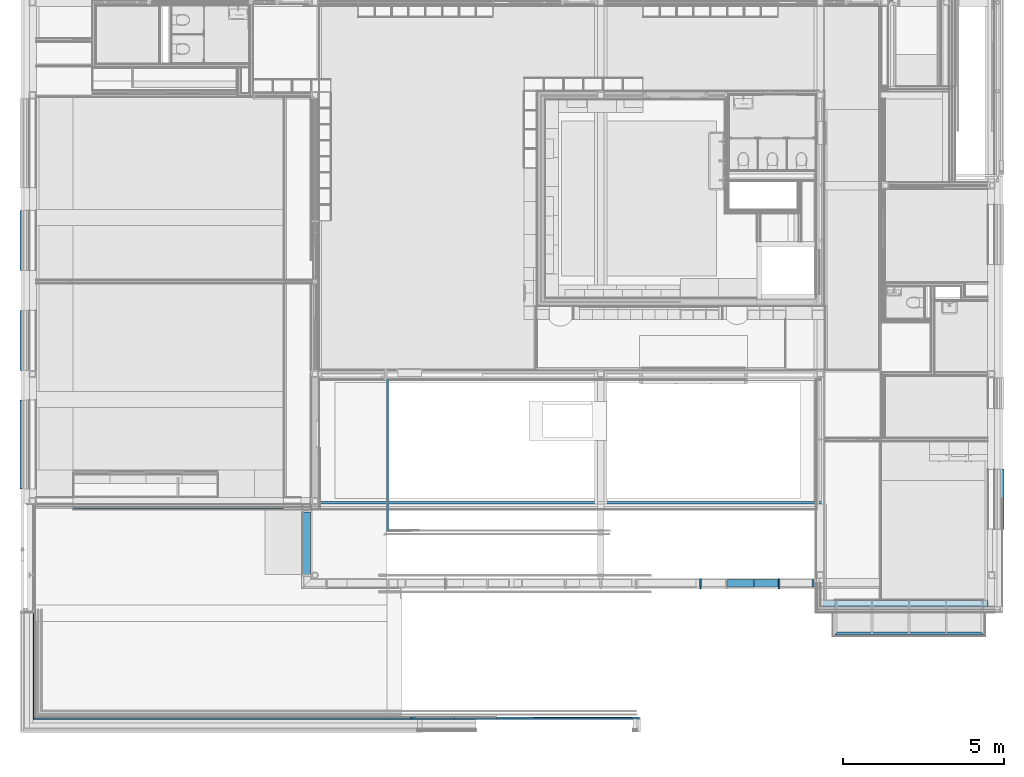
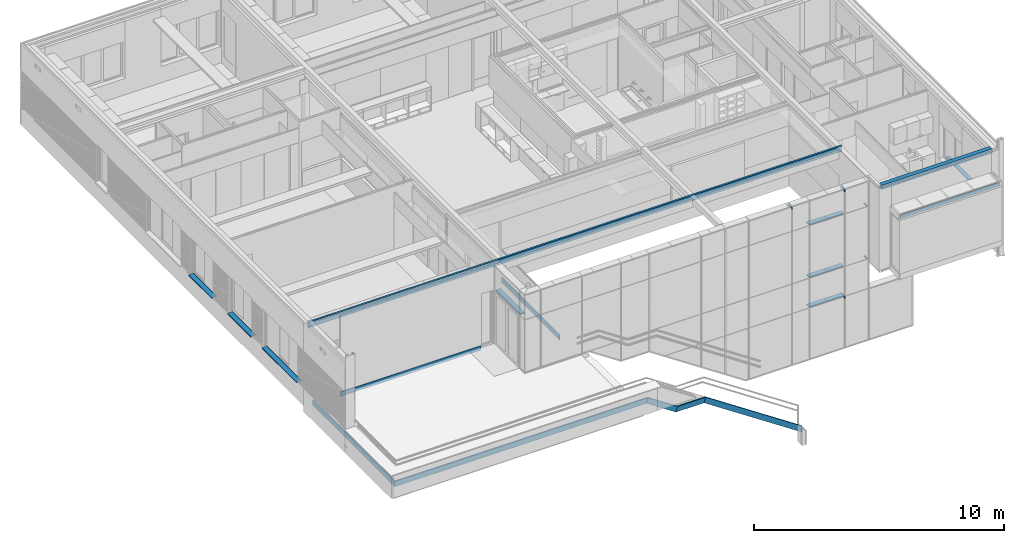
# One storey, part 5 of 137: 14 beams, 12 members, 1 element without a shape of its own.
"""IFC2X3 building model written with IfcOpenShell, lengths in millimetres."""

from ifc_helpers import new_model, entity, si_unit, converted_unit, derived_unit, money_unit, direction, frame, origin_with_axes, place, context, subcontext, project, spatial, faceted_brep, source, transform, mapped, material, type_object, type_shapes, element, aggregate, save


model = new_model("IFC2X3")

# Units and contexts
model_context = context("Model", 3, precision=0.01, world=origin_with_axes(), true_north=direction((0.0, 1.0)))
body_context = subcontext(model_context, "Body", "Model", "MODEL_VIEW")
ifc_project = project(units=[si_unit("LENGTHUNIT", "METRE", prefix="MILLI"), si_unit("AREAUNIT", "SQUARE_METRE"), si_unit("VOLUMEUNIT", "CUBIC_METRE"), converted_unit("PLANEANGLEUNIT", "DEGREE", entity("IfcPlaneAngleMeasure", 0.0174532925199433), si_unit("PLANEANGLEUNIT", "RADIAN"), dimensions=[0, 0, 0, 0, 0, 0, 0]), money_unit("EUR"), converted_unit("TIMEUNIT", "Year", entity("IfcTimeMeasure", 31556926.0), si_unit("TIMEUNIT", "SECOND"), dimensions=[0, 0, 1, 0, 0, 0, 0]), si_unit("MASSUNIT", "GRAM", prefix="KILO"), si_unit("THERMODYNAMICTEMPERATUREUNIT", "DEGREE_CELSIUS"), si_unit("LUMINOUSINTENSITYUNIT", "LUMEN"), si_unit("ENERGYUNIT", "JOULE", prefix="MEGA"), derived_unit("THERMALCONDUCTANCEUNIT", [(si_unit("POWERUNIT", "WATT"), 1), (si_unit("LENGTHUNIT", "METRE"), -1), (si_unit("THERMODYNAMICTEMPERATUREUNIT", "KELVIN"), -1)]), derived_unit("SPECIFICHEATCAPACITYUNIT", [(si_unit("ENERGYUNIT", "JOULE"), 1), (si_unit("MASSUNIT", "GRAM", prefix="KILO"), -1), (si_unit("THERMODYNAMICTEMPERATUREUNIT", "KELVIN"), -1)]), derived_unit("MASSDENSITYUNIT", [(si_unit("MASSUNIT", "GRAM", prefix="KILO"), 1), (si_unit("VOLUMEUNIT", "CUBIC_METRE"), -1)])], contexts=[model_context])

# Site, building, storey
site_placement = place(None, origin_with_axes())
site = spatial("IfcSite", under=ifc_project, at=site_placement, Name="Site", CompositionType="ELEMENT")
building_placement = place(site_placement, origin_with_axes())
building = spatial("IfcBuilding", under=site, at=building_placement, Name="Naam gebouw", CompositionType="ELEMENT")
storey_placement = place(building_placement, frame((0.0, 0.0, 3960.0), z_axis=(0.0, 0.0, 1.0), x_axis=(1.0, 0.0, 0.0)))
storey = spatial("IfcBuildingStorey", under=building, at=storey_placement, Name="1e verdieping", CompositionType="ELEMENT", Elevation=3960.0)

# Curtain wall, members
curtain_wall_type = type_object("IfcCurtainWallType", Name="Curtain Wall Type", PredefinedType="NOTDEFINED")
curtain_wall_placement = place(storey_placement, frame((8473.014787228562, 4364.43626274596, -3949.999921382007), z_axis=(0.0, 0.0, 1.0), x_axis=(1.0, 0.0, 0.0)))
curtain_wall = element("IfcCurtainWall", 1, at=curtain_wall_placement, inside=storey, type_object=curtain_wall_type, Name="21_Vliesgevel-x")
ifc_material_1 = material(Name="Metaal - Staal AFW")
member_type_1 = type_object("IfcMemberType", Name="Transom Frame 50 x 258", PredefinedType="MULLION")
shared_shape_1 = source(origin_with_axes(), body_context, "Body", "Brep", [
    faceted_brep([(25.0, -17.4, 24.99999999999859), (25.0, -17.4, 852.961212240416), (25.0, -237.0, 852.961212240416), (25.0, -237.0, 24.99999999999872), (-25.0, -17.4, 24.99999999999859), (-25.0, -17.4, 852.961212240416), (-25.0, -237.0, 852.961212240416), (-25.0, -237.0, 24.99999999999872)], [[[0, 1, 2, 3]], [[4, 5, 1, 0]], [[2, 1, 5, 6]], [[3, 2, 6, 7]], [[3, 7, 4, 0]], [[7, 6, 5, 4]]]),
])
member_1_placement = place(curtain_wall_placement, frame((13116.98043337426, -161.4362627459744, 2535.000025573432), z_axis=(1.0, 0.0, 0.0), x_axis=(0.0, 0.0, 1.0)))
member_1 = element("IfcMember", 2, at=member_1_placement, type_object=member_type_1, material=ifc_material_1, Name="h METAAL_Kader-x", ObjectType="MULLION", context=body_context, shape_type="MappedRepresentation", body=[
    mapped(shared_shape_1, transform((0.0, 0.0, 0.0))),
])
member_2_placement = place(curtain_wall_placement, frame((13116.98043337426, -161.4362627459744, 3984.999927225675), z_axis=(1.0, 0.0, 0.0), x_axis=(0.0, 0.0, 1.0)))
member_2 = element("IfcMember", 3, at=member_2_placement, type_object=member_type_1, material=ifc_material_1, Name="_Kader-x", ObjectType="MULLION", context=body_context, shape_type="MappedRepresentation", body=[
    mapped(shared_shape_1, transform((0.0, 0.0, 0.0))),
])
member_3_placement = place(curtain_wall_placement, frame((13116.98043308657, -161.4362627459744, 6549.999915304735), z_axis=(1.0, 0.0, 0.0), x_axis=(0.0, 0.0, 1.0)))
member_3 = element("IfcMember", 4, at=member_3_placement, type_object=member_type_1, material=ifc_material_1, Name="_Kader-x", ObjectType="MULLION", context=body_context, shape_type="MappedRepresentation", body=[
    mapped(shared_shape_1, transform((0.0, 0.0, 0.0))),
])
shared_shape_2 = source(origin_with_axes(), body_context, "Body", "Brep", [
    faceted_brep([(25.0, -237.0, 0.0), (25.0, -17.4, 0.0), (25.0, -17.4, 754.9800860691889), (25.0, -237.0, 754.9800860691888), (-25.0, -237.0, 0.0), (-25.0, -17.4, 0.0), (-25.0, -17.4, 754.9800860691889), (-25.0, -237.0, 754.9800860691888)], [[[0, 1, 2, 3]], [[0, 4, 5, 1]], [[1, 5, 6, 2]], [[3, 2, 6, 7]], [[4, 0, 3, 7]], [[5, 4, 7, 6]]]),
])
member_4_placement = place(curtain_wall_placement, frame((13969.94164561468, -161.4362627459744, 3984.999927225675), z_axis=(1.0, 0.0, 0.0), x_axis=(0.0, 0.0, 1.0)))
member_4 = element("IfcMember", 5, at=member_4_placement, type_object=member_type_1, material=ifc_material_1, Name="_Kader-x", ObjectType="MULLION", context=body_context, shape_type="MappedRepresentation", body=[
    mapped(shared_shape_2, transform((0.0, 0.0, 0.0))),
])
member_5_placement = place(curtain_wall_placement, frame((13969.94164561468, -161.4362627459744, 2535.000025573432), z_axis=(1.0, 0.0, 0.0), x_axis=(0.0, 0.0, 1.0)))
member_5 = element("IfcMember", 6, at=member_5_placement, type_object=member_type_1, material=ifc_material_1, Name="h METAAL_Kader-x", ObjectType="MULLION", context=body_context, shape_type="MappedRepresentation", body=[
    mapped(shared_shape_2, transform((0.0, 0.0, 0.0))),
])
member_6_placement = place(curtain_wall_placement, frame((13969.94164561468, -161.4362627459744, 6549.999915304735), z_axis=(1.0, 0.0, 0.0), x_axis=(0.0, 0.0, 1.0)))
member_6 = element("IfcMember", 7, at=member_6_placement, type_object=member_type_1, material=ifc_material_1, Name="_Kader-x", ObjectType="MULLION", context=body_context, shape_type="MappedRepresentation", body=[
    mapped(shared_shape_2, transform((0.0, 0.0, 0.0))),
])
member_type_2 = type_object("IfcMemberType", Name="Mullion Frame 50 x 313", PredefinedType="MULLION")
shared_shape_3 = source(origin_with_axes(), body_context, "Body", "Brep", [
    faceted_brep([(10.0, -17.4, -2.010167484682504e-07), (10.0, 21.0, -2.010167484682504e-07), (10.0, 21.0, 95.00025928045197), (10.0, -17.4, 95.00025928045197), (-10.0, -17.4, -2.010167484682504e-07), (-10.0, 21.0, -2.010167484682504e-07), (-10.0, 21.0, 95.00025928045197), (-10.0, -17.4, 95.00025928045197)], [[[0, 1, 2, 3]], [[0, 4, 5, 1]], [[1, 5, 6, 2]], [[3, 2, 6, 7]], [[4, 0, 3, 7]], [[5, 4, 7, 6]]]),
    faceted_brep([(25.0, -272.0, -2.010167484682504e-07), (25.0, -17.4, -2.010167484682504e-07), (25.0, -17.4, 95.00025928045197), (25.0, -272.0, 95.00025928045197), (-25.0, -272.0, -2.010167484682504e-07), (-25.0, -17.4, -2.010167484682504e-07), (-25.0, -17.4, 95.00025928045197), (-25.0, -272.0, 95.00025928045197)], [[[0, 1, 2, 3]], [[0, 4, 5, 1]], [[1, 5, 6, 2]], [[3, 2, 6, 7]], [[4, 0, 3, 7]], [[5, 4, 7, 6]]]),
    faceted_brep([(-25.0, 40.49999999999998, -2.010167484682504e-07), (-25.0, 21.0, -2.010167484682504e-07), (-25.0, 21.0, 95.00025928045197), (-25.0, 40.49999999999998, 95.00025928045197), (25.0, 40.49999999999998, -2.010167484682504e-07), (25.0, 21.0, -2.010167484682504e-07), (25.0, 21.0, 95.00025928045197), (25.0, 40.49999999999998, 95.00025928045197)], [[[0, 1, 2, 3]], [[0, 4, 5, 1]], [[1, 5, 6, 2]], [[3, 2, 6, 7]], [[4, 0, 3, 7]], [[5, 4, 7, 6]]]),
])
member_7_placement = place(curtain_wall_placement, frame((14749.92173168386, -161.4362627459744, 2439.99976629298), z_axis=(0.0, 0.0, 1.0), x_axis=(-1.0, 0.0, 0.0)))
member_7 = element("IfcMember", 8, at=member_7_placement, type_object=member_type_2, material=ifc_material_1, Name="h METAAL_Kader-x", ObjectType="MULLION", context=body_context, shape_type="MappedRepresentation", body=[
    mapped(shared_shape_3, transform((0.0, 0.0, 0.0))),
])
shared_shape_4 = source(origin_with_axes(), body_context, "Body", "Brep", [
    faceted_brep([(10.0, -17.4, -4.973650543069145e-06), (10.0, 21.0, -4.973650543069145e-06), (10.0, 21.0, 110.0002575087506), (10.0, -17.4, 110.0002506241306), (-10.0, -17.4, -4.973650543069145e-06), (-10.0, 21.0, -4.973650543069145e-06), (-10.0, 21.0, 110.0002575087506), (-10.0, -17.4, 110.0002506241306)], [[[0, 1, 2, 3]], [[0, 4, 5, 1]], [[1, 5, 6, 2]], [[3, 2, 6, 7]], [[4, 0, 3, 7]], [[5, 4, 7, 6]]]),
    faceted_brep([(25.0, -272.0, -4.973650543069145e-06), (25.0, -17.4, -4.973650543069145e-06), (25.0, -17.4, 110.0002506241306), (25.0, -272.0, 110.000204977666), (-25.0, -272.0, -4.973650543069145e-06), (-25.0, -17.4, -4.973650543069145e-06), (-25.0, -17.4, 110.0002506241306), (-25.0, -272.0, 110.000204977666)], [[[0, 1, 2, 3]], [[0, 4, 5, 1]], [[1, 5, 6, 2]], [[3, 2, 6, 7]], [[4, 0, 3, 7]], [[5, 4, 7, 6]]]),
    faceted_brep([(-25.0, 40.49999999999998, -4.973650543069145e-06), (-25.0, 21.0, -4.973650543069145e-06), (-25.0, 21.0, 110.0002575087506), (-25.0, 40.49999999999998, 110.0002610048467), (25.0, 40.49999999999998, -4.973650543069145e-06), (25.0, 21.0, -4.973650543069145e-06), (25.0, 21.0, 110.0002575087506), (25.0, 40.49999999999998, 110.0002610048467)], [[[0, 1, 2, 3]], [[0, 4, 5, 1]], [[1, 5, 6, 2]], [[3, 2, 6, 7]], [[4, 0, 3, 7]], [[5, 4, 7, 6]]]),
])
type_shapes(member_type_2, [shared_shape_3, shared_shape_4])
member_8_placement = place(curtain_wall_placement, frame((14749.92173576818, -161.4362627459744, 7639.999766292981), z_axis=(7.30038870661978e-08, 0.0, 0.9999999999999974), x_axis=(-0.9999999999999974, 0.0, 7.30038870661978e-08)))
member_8 = element("IfcMember", 9, at=member_8_placement, type_object=member_type_2, material=ifc_material_1, Name="_Kader-x", ObjectType="MULLION", context=body_context, shape_type="MappedRepresentation", body=[
    mapped(shared_shape_4, transform((0.0, 0.0, 0.0))),
])
member_9_placement = place(curtain_wall_placement, frame((12316.98041549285, -161.4362627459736, 7639.999766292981), z_axis=(0.0, 0.0, 1.0), x_axis=(-1.0, 0.0, 0.0)))
member_9 = element("IfcMember", 10, at=member_9_placement, type_object=member_type_2, material=ifc_material_1, Name="_Kader-x", ObjectType="MULLION", context=body_context, shape_type="MappedRepresentation", body=[
    mapped(shared_shape_4, transform((0.0, 0.0, 0.0))),
])
shared_shape_5 = source(origin_with_axes(), body_context, "Body", "Brep", [
    faceted_brep([(25.0, -237.0, -3.598017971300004e-06), (25.0, -17.4, -3.598017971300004e-06), (25.0, -17.4, 61.04460701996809), (25.0, -237.0, 61.04457541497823), (-25.0, -237.0, -3.598017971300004e-06), (-25.0, -17.4, -3.598017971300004e-06), (-25.0, -17.4, 61.04460701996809), (-25.0, -237.0, 61.04457541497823)], [[[0, 1, 2, 3]], [[0, 4, 5, 1]], [[1, 5, 6, 2]], [[3, 2, 6, 7]], [[4, 0, 3, 7]], [[5, 4, 7, 6]]]),
])
type_shapes(member_type_1, [shared_shape_1, shared_shape_2, shared_shape_5])
member_10_placement = place(curtain_wall_placement, frame((15769.94164561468, -161.4362627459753, 3984.999927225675), z_axis=(0.9999999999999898, 0.0, -1.439207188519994e-07), x_axis=(1.439207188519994e-07, 0.0, 0.9999999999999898)))
member_10 = element("IfcMember", 11, at=member_10_placement, type_object=member_type_1, material=ifc_material_1, Name="h METAAL_Kader-x", ObjectType="MULLION", context=body_context, shape_type="MappedRepresentation", body=[
    mapped(shared_shape_5, transform((0.0, 0.0, 0.0))),
])
member_11_placement = place(curtain_wall_placement, frame((15769.94164561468, -161.4362627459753, 6549.999922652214), z_axis=(1.0, 0.0, 0.0), x_axis=(0.0, 0.0, 1.0)))
member_11 = element("IfcMember", 12, at=member_11_placement, type_object=member_type_1, material=ifc_material_1, Name="_Kader-x", ObjectType="MULLION", context=body_context, shape_type="MappedRepresentation", body=[
    mapped(shared_shape_5, transform((0.0, 0.0, 0.0))),
])

# Beams
ifc_material_2 = material(Name="Metaal - Staal C")
beam_type_1 = type_object("IfcBeamType", Name="UNP260 90 x 260", PredefinedType="BEAM")
beam_1_placement = place(storey_placement, frame((0.0, 6779.999999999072, 3729.999999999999), z_axis=(0.0, 0.0, 1.0), x_axis=(0.0, -1.0, 0.0)))
element("IfcBeam", 13, at=beam_1_placement, inside=storey, type_object=beam_type_1, material=ifc_material_2, Name="h METAAL_Regenwaterafvoer-x", ObjectType="BEAM", context=body_context, shape_type="Brep", body=[
    faceted_brep([(0.0, 0.0, 129.9999999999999), (0.0, 24600.99903663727, 130.0000290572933), (-89.99999999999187, 24600.99903663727, 130.0000290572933), (-89.99999999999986, 0.0, 129.9999999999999), (0.0, 0.0, -129.9999999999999), (0.0, 24600.99903663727, -129.9999999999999), (-10.00000000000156, 24600.99903663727, 115.9999999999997), (-89.99999999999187, 24600.99903663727, 115.9999999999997), (-89.99999999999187, 24600.99903663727, -129.9999999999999), (-89.99999999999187, 24600.99903663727, -115.9999999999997), (-10.00000000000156, 24600.99903663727, -115.9999999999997), (-89.99999999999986, 0.0, 115.9999999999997), (-89.99999999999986, 0.0, -129.9999999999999), (-9.999999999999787, 0.0, 115.9999999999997), (-9.999999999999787, 0.0, -115.9999999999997), (-89.99999999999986, 0.0, -115.9999999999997)], [[[0, 1, 2, 3]], [[4, 5, 1, 0]], [[6, 7, 2, 1, 5, 8, 9, 10]], [[3, 2, 7, 11]], [[12, 4, 0, 3, 11, 13, 14, 15]], [[12, 8, 5, 4]], [[11, 7, 6, 13]], [[15, 9, 8, 12]], [[14, 10, 9, 15]], [[13, 6, 10, 14]]]),
])
beam_type_2 = type_object("IfcBeamType", Name="200X200X10 200 x 200", PredefinedType="BEAM")
beam_2_placement = place(storey_placement, frame((24600.99903999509, 3699.999999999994, 3759.999999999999), z_axis=(0.0, 0.0, 1.0), x_axis=(0.0, -1.0, 0.0)))
element("IfcBeam", 14, at=beam_2_placement, inside=storey, type_object=beam_type_2, material=ifc_material_2, Name="h METAAL_Regenwaterafvoer-x", ObjectType="BEAM", context=body_context, shape_type="Brep", body=[
    faceted_brep([(-100.0000000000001, 5098.000959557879, -99.99999999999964), (99.99999999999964, 5098.000959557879, -99.99999999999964), (100.0000000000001, 0.0, -99.99999999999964), (-100.0000000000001, 0.0, -99.99999999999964), (-100.0000000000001, 5098.000959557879, 99.99999999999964), (99.99999999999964, 5098.000959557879, 99.99999999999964), (-90.0000000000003, 5098.000959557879, -89.99999999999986), (89.99999999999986, 5098.000959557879, -89.99999999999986), (89.99999999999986, 5098.000959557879, 89.99999999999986), (-90.0000000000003, 5098.000959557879, 89.99999999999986), (100.0000000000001, 0.0, 99.99999999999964), (-100.0000000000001, 0.0, 99.99999999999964), (-89.99999999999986, 0.0, -89.99999999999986), (-89.99999999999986, 0.0, 89.99999999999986), (89.99999999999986, 0.0, 89.99999999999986), (89.99999999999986, 0.0, -89.99999999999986)], [[[0, 1, 2, 3]], [[0, 4, 5, 1], [6, 7, 8, 9]], [[1, 5, 10, 2]], [[3, 2, 10, 11], [12, 13, 14, 15]], [[4, 0, 3, 11]], [[5, 4, 11, 10]], [[7, 6, 12, 15]], [[8, 7, 15, 14]], [[9, 8, 14, 13]], [[6, 9, 13, 12]]]),
])
ifc_material_3 = material(Name="Metaal - Aluminium")
beam_type_3 = type_object("IfcBeamType", Name="41 Waterslag 218 x 75", PredefinedType="BEAM")
beam_3_placement = place(storey_placement, frame((30150.0, 7865.997781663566, 750.0), z_axis=(0.0, 0.0, 1.0), x_axis=(-1.0, 0.0, 0.0)))
element("IfcBeam", 15, at=beam_3_placement, inside=storey, type_object=beam_type_3, material=ifc_material_3, Name="h4 Aluminium, aluminiumlegeringen_Regenwaterafvoer-x", ObjectType="BEAM", context=body_context, shape_type="Brep", body=[
    faceted_brep([(178.0000000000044, 0.0, 49.99999999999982), (178.0000000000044, 1870.000000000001, 49.99999999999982), (175.0000000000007, 1870.000000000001, 49.99999999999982), (175.0000000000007, 0.0, 49.99999999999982), (177.9999999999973, 0.0, 27.27462510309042), (177.9999999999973, 1870.000000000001, 27.27462510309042), (-36.99999999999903, 1870.000000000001, 12.08231741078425), (-36.99999999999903, 1870.000000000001, -21.99999999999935), (-21.99999999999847, 1870.000000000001, -21.99999999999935), (-21.99999999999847, 1870.000000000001, -24.99999999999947), (-39.99999999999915, 1870.000000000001, -24.99999999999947), (-39.99999999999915, 1870.000000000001, 15.00000000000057), (175.0000000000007, 1870.000000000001, 30.00000000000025), (175.0000000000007, 0.0, 30.00000000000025), (-39.99999999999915, 0.0, 15.00000000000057), (-39.99999999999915, 0.0, -24.99999999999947), (-21.99999999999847, 0.0, -24.99999999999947), (-21.99999999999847, 0.0, -21.99999999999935), (-36.99999999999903, 0.0, -21.99999999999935), (-36.99999999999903, 0.0, 12.08231741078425)], [[[0, 1, 2, 3]], [[4, 5, 1, 0]], [[2, 1, 5, 6, 7, 8, 9, 10, 11, 12]], [[3, 2, 12, 13]], [[4, 0, 3, 13, 14, 15, 16, 17, 18, 19]], [[19, 6, 5, 4]], [[18, 7, 6, 19]], [[17, 8, 7, 18]], [[16, 9, 8, 17]], [[15, 10, 9, 16]], [[14, 11, 10, 15]], [[13, 12, 11, 14]]]),
])
beam_4_placement = place(storey_placement, frame((-250.0000000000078, 7244.999999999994, 750.0), z_axis=(0.0, 0.0, 1.0), x_axis=(0.999999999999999, 4.600755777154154e-08, 0.0)))
element("IfcBeam", 16, at=beam_4_placement, inside=storey, type_object=beam_type_3, material=ifc_material_3, Name="h4 Aluminium, aluminiumlegeringen_Regenwaterafvoer-x", ObjectType="BEAM", context=body_context, shape_type="Brep", body=[
    faceted_brep([(178.0000000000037, 0.0, 49.99999999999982), (178.0000000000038, 2769.999999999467, 49.99999999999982), (175.0000000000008, 2769.999999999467, 49.99999999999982), (175.0000000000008, 0.0, 49.99999999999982), (177.9999999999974, 0.0, 27.27462510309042), (177.9999999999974, 2769.999999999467, 27.27462510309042), (-36.99999999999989, 2769.999999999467, 12.08231741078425), (-36.99999999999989, 2769.999999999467, -21.99999999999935), (-21.99999999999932, 2769.999999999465, -21.99999999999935), (-21.99999999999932, 2769.999999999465, -24.99999999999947), (-40.00000000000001, 2769.999999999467, -24.99999999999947), (-40.00000000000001, 2769.999999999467, 15.00000000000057), (175.0000000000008, 2769.999999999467, 30.00000000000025), (175.0000000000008, 0.0, 30.00000000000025), (-40.00000000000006, 0.0, 15.00000000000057), (-40.00000000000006, 0.0, -24.99999999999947), (-21.99999999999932, 0.0, -24.99999999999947), (-21.99999999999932, 0.0, -21.99999999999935), (-36.99999999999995, 0.0, -21.99999999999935), (-36.99999999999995, 0.0, 12.08231741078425)], [[[0, 1, 2, 3]], [[4, 5, 1, 0]], [[2, 1, 5, 6, 7, 8, 9, 10, 11, 12]], [[3, 2, 12, 13]], [[4, 0, 3, 13, 14, 15, 16, 17, 18, 19]], [[19, 6, 5, 4]], [[18, 7, 6, 19]], [[17, 8, 7, 18]], [[16, 9, 8, 17]], [[15, 10, 9, 16]], [[14, 11, 10, 15]], [[13, 12, 11, 14]]]),
])
beam_5_placement = place(storey_placement, frame((-250.0000000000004, 14014.99980396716, 750.0), z_axis=(0.0, 0.0, 1.0), x_axis=(1.0, 0.0, 0.0)))
element("IfcBeam", 17, at=beam_5_placement, inside=storey, type_object=beam_type_3, material=ifc_material_3, Name="h4 Aluminium, aluminiumlegeringen_Regenwaterafvoer-x", ObjectType="BEAM", context=body_context, shape_type="Brep", body=[
    faceted_brep([(178.0000000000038, 0.0, 49.99999999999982), (178.0000000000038, 1870.000007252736, 49.99999999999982), (175.0000000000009, 1870.000007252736, 49.99999999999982), (175.0000000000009, 0.0, 49.99999999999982), (177.9999999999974, 0.0, 27.27462510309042), (177.9999999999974, 1870.000007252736, 27.27462510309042), (-36.99999999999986, 1870.000007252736, 12.08231741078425), (-36.99999999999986, 1870.000007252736, -21.99999999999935), (-21.9999999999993, 1870.000007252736, -21.99999999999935), (-21.9999999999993, 1870.000007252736, -24.99999999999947), (-39.99999999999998, 1870.000007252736, -24.99999999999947), (-39.99999999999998, 1870.000007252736, 15.00000000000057), (175.0000000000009, 1870.000007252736, 30.00000000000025), (175.0000000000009, 0.0, 30.00000000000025), (-39.99999999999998, 0.0, 15.00000000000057), (-39.99999999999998, 0.0, -24.99999999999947), (-21.9999999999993, 0.0, -24.99999999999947), (-21.9999999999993, 0.0, -21.99999999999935), (-36.99999999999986, 0.0, -21.99999999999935), (-36.99999999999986, 0.0, 12.08231741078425)], [[[0, 1, 2, 3]], [[4, 5, 1, 0]], [[2, 1, 5, 6, 7, 8, 9, 10, 11, 12]], [[3, 2, 12, 13]], [[4, 0, 3, 13, 14, 15, 16, 17, 18, 19]], [[19, 6, 5, 4]], [[18, 7, 6, 19]], [[17, 8, 7, 18]], [[16, 9, 8, 17]], [[15, 10, 9, 16]], [[14, 11, 10, 15]], [[13, 12, 11, 14]]]),
])
beam_6_placement = place(storey_placement, frame((-250.0001274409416, 10915.00011055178, 750.0), z_axis=(0.0, 0.0, 1.0), x_axis=(1.0, 0.0, 0.0)))
element("IfcBeam", 18, at=beam_6_placement, inside=storey, type_object=beam_type_3, material=ifc_material_3, Name="h4 Aluminium, aluminiumlegeringen_Regenwaterafvoer-x", ObjectType="BEAM", context=body_context, shape_type="Brep", body=[
    faceted_brep([(178.0000000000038, 0.0, 49.99999999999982), (178.0000000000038, 1870.000000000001, 49.99999999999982), (175.0000000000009, 1870.000000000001, 49.99999999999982), (175.0000000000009, 0.0, 49.99999999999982), (177.9999999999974, 0.0, 27.27462510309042), (177.9999999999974, 1870.000000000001, 27.27462510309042), (-36.99999999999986, 1870.000000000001, 12.08231741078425), (-36.99999999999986, 1870.000000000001, -21.99999999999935), (-21.9999999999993, 1870.000000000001, -21.99999999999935), (-21.9999999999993, 1870.000000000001, -24.99999999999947), (-39.99999999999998, 1870.000000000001, -24.99999999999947), (-39.99999999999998, 1870.000000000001, 15.00000000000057), (175.0000000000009, 1870.000000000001, 30.00000000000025), (175.0000000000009, 0.0, 30.00000000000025), (-39.99999999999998, 0.0, 15.00000000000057), (-39.99999999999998, 0.0, -24.99999999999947), (-21.9999999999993, 0.0, -24.99999999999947), (-21.9999999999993, 0.0, -21.99999999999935), (-36.99999999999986, 0.0, -21.99999999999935), (-36.99999999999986, 0.0, 12.08231741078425)], [[[0, 1, 2, 3]], [[4, 5, 1, 0]], [[2, 1, 5, 6, 7, 8, 9, 10, 11, 12]], [[3, 2, 12, 13]], [[4, 0, 3, 13, 14, 15, 16, 17, 18, 19]], [[19, 6, 5, 4]], [[18, 7, 6, 19]], [[17, 8, 7, 18]], [[16, 9, 8, 17]], [[15, 10, 9, 16]], [[14, 11, 10, 15]], [[13, 12, 11, 14]]]),
])
beam_type_4 = type_object("IfcBeamType", Name="UNP160 65 x 160", PredefinedType="BEAM")
beam_7_placement = place(storey_placement, frame((29549.99999999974, 2749.999999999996, 2703.499999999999), z_axis=(0.0, 0.0, 1.0), x_axis=(0.0, 1.0, 0.0)))
element("IfcBeam", 19, at=beam_7_placement, inside=storey, type_object=beam_type_4, material=ifc_material_2, Name="h METAAL_Regenwaterafvoer-x", ObjectType="BEAM", context=body_context, shape_type="Brep", body=[
    faceted_brep([(0.0, 0.0, -80.00000000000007), (0.0, 4600.000960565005, -80.00000000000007), (64.99999999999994, 4535.000960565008, -80.00000000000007), (64.99999999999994, 65.00000000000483, -80.00000000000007), (0.0, 0.0, 80.00000000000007), (0.0, 4600.000960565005, 80.00000000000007), (64.99999999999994, 4535.000960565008, 80.00000000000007), (64.99999999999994, 4535.000960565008, 69.49999999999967), (7.49999999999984, 4592.500960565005, 69.49999999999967), (7.49999999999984, 4592.500960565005, -69.49999999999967), (64.99999999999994, 4535.000960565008, -69.49999999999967), (64.99999999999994, 65.00000000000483, -69.49999999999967), (7.49999999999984, 7.500000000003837, -69.49999999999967), (7.49999999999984, 7.500000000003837, 69.49999999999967), (64.99999999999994, 65.00000000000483, 69.49999999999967), (64.99999999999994, 65.00000000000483, 80.00000000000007)], [[[0, 1, 2, 3]], [[4, 5, 1, 0]], [[2, 1, 5, 6, 7, 8, 9, 10]], [[3, 2, 10, 11]], [[4, 0, 3, 11, 12, 13, 14, 15]], [[15, 6, 5, 4]], [[14, 7, 6, 15]], [[13, 8, 7, 14]], [[12, 9, 8, 13]], [[11, 10, 9, 12]]]),
])
ifc_material_4 = material(Name="Gipsplaat")
beam_type_5 = type_object("IfcBeamType", Name="Gipsplaat 13 x 275", PredefinedType="BEAM")
beam_8_placement = place(storey_placement, frame((11108.79559255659, 5970.000018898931, -124.9999993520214), z_axis=(0.0, 0.0, 1.0), x_axis=(1.0, 0.0, 0.0)))
element("IfcBeam", 20, at=beam_8_placement, inside=storey, type_object=beam_type_5, material=ifc_material_4, Name="f7 Vormvaste grondstoffen, gebonden met gips_Regenwaterafvoer-x", ObjectType="BEAM", context=body_context, shape_type="Brep", body=[
    faceted_brep([(-6.249999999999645, 4649.968108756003, 0.0), (-6.249999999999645, 0.0, 0.0), (6.249999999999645, 0.0, 0.0), (6.249999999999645, 4649.968108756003, 0.0), (-6.249999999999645, 4649.968108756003, -274.9999999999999), (-6.249999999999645, 0.0, -274.9999999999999), (6.249999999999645, 0.0, -274.9999999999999), (6.249999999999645, 4649.968108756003, -274.9999999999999)], [[[0, 1, 2, 3]], [[4, 5, 1, 0]], [[1, 5, 6, 2]], [[3, 2, 6, 7]], [[7, 4, 0, 3]], [[7, 6, 5, 4]]]),
])
ifc_material_5 = material(Name="47 waterdichte laag - bitumen")
beam_type_6 = type_object("IfcBeamType", Name="41 Plint stucwerk 62 x 250", PredefinedType="BEAM")
beam_9_placement = place(storey_placement, frame((183.9999969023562, 6702.999992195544, 89.99999999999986), z_axis=(0.0, 0.0, 1.0), x_axis=(-1.0, 0.0, 0.0)))
element("IfcBeam", 21, at=beam_9_placement, inside=storey, type_object=beam_type_6, material=ifc_material_5, Name="g2- Gebakken klei_Regenwaterafvoer-x", ObjectType="BEAM", context=body_context, shape_type="Brep", body=[
    faceted_brep([(0.0, 0.0, 0.0), (0.0, 6518.999992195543, 0.0), (0.0, 6518.999992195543, -4.000000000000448), (0.0, 0.0, -4.000000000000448), (62.0, 0.0, 0.0), (62.00000000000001, 6580.999992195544, 0.0), (62.00000000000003, 6580.999992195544, -250.0), (58.00000000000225, 6576.999992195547, -250.0), (58.00000000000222, 6576.999992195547, -3.999999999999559), (58.00000000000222, 0.0, -3.999999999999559), (58.00000000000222, 0.0, -250.0), (62.00000000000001, 0.0, -250.0)], [[[0, 1, 2, 3]], [[4, 5, 1, 0]], [[2, 1, 5, 6, 7, 8]], [[3, 2, 8, 9]], [[4, 0, 3, 9, 10, 11]], [[11, 6, 5, 4]], [[10, 7, 6, 11]], [[9, 8, 7, 10]]]),
])
beam_10_placement = place(storey_placement, frame((183.999996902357, 183.9999999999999, 89.99999999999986), z_axis=(0.0, 0.0, 1.0), x_axis=(0.0, -1.0, 0.0)))
element("IfcBeam", 22, at=beam_10_placement, inside=storey, type_object=beam_type_6, material=ifc_material_5, Name="g2- Gebakken klei_Regenwaterafvoer-x", ObjectType="BEAM", context=body_context, shape_type="Brep", body=[
    faceted_brep([(0.0, 0.0, 0.0), (0.0, 11635.99992787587, 0.0), (0.0, 11634.78882545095, -4.000000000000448), (0.0, 0.0, -4.000000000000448), (62.00000000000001, -62.00000000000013, 0.0), (61.99999999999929, 11635.99992787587, 0.0), (61.9999999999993, 11560.30602631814, -250.0), (58.00000000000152, 11560.30602631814, -250.0), (58.00000000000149, 11634.78882545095, -3.999999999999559), (58.00000000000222, -58.00000000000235, -3.999999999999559), (58.00000000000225, -58.00000000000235, -250.0), (62.00000000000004, -62.00000000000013, -250.0)], [[[0, 1, 2, 3]], [[4, 5, 1, 0]], [[2, 1, 5, 6, 7, 8]], [[3, 2, 8, 9]], [[4, 0, 3, 9, 10, 11]], [[11, 6, 5, 4]], [[10, 7, 6, 11]], [[9, 8, 7, 10]]]),
])
beam_11_placement = place(storey_placement, frame((11819.99992477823, 184.0000000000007, 89.99999999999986), z_axis=(0.0, 0.0, 1.0), x_axis=(0.0, -1.0, 0.0)))
element("IfcBeam", 23, at=beam_11_placement, inside=storey, type_object=beam_type_6, material=ifc_material_5, Name="g2- Gebakken klei_Regenwaterafvoer-x", ObjectType="BEAM", context=body_context, shape_type="Brep", body=[
    faceted_brep([(0.0, 0.0, 0.0), (0.0, 1350.000168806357, -899.9999999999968), (0.0, 1348.789066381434, -903.9999999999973), (0.0, -1.211102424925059, -3.999999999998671), (62.00000000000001, 0.0, 0.0), (61.99999999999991, 1350.000168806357, -899.9999999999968), (61.99999999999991, 1274.30626724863, -1149.999999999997), (58.00000000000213, 1274.30626724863, -1149.999999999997), (58.00000000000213, 1348.789066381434, -903.9999999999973), (58.00000000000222, -1.211102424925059, -3.999999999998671), (58.00000000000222, -75.69390155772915, -249.9999999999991), (62.00000000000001, -75.69390155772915, -249.9999999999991)], [[[0, 1, 2, 3]], [[4, 5, 1, 0]], [[2, 1, 5, 6, 7, 8]], [[3, 2, 8, 9]], [[4, 0, 3, 9, 10, 11]], [[11, 6, 5, 4]], [[10, 7, 6, 11]], [[9, 8, 7, 10]]]),
])
beam_12_placement = place(storey_placement, frame((13170.00009358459, 184.0000000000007, -809.9999999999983), z_axis=(0.0, 0.0, 1.0), x_axis=(0.0, -1.0, 0.0)))
element("IfcBeam", 24, at=beam_12_placement, inside=storey, type_object=beam_type_6, material=ifc_material_5, Name="g2- Gebakken klei_Regenwaterafvoer-x", ObjectType="BEAM", context=body_context, shape_type="Brep", body=[
    faceted_brep([(0.0, 0.0, 0.0), (0.0, 1294.999873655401, 0.0), (0.0, 1293.788771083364, -4.000000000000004), (0.0, -1.211102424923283, -4.000000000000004), (62.00000000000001, 0.0, 0.0), (61.99999999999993, 1294.999872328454, 0.0), (61.99999999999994, 1219.305961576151, -250.0), (58.00000000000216, 1219.30596166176, -250.0), (58.00000000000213, 1293.788769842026, -4.000000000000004), (58.00000000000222, -1.211102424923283, -4.000000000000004), (58.00000000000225, -75.69390155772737, -250.0), (62.00000000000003, -75.69390155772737, -250.0)], [[[0, 1, 2, 3]], [[4, 5, 1, 0]], [[2, 1, 5, 6, 7, 8]], [[3, 2, 8, 9]], [[4, 0, 3, 9, 10, 11]], [[11, 6, 5, 4]], [[10, 7, 6, 11]], [[9, 8, 7, 10]]]),
])
beam_13_placement = place(storey_placement, frame((14470.00004533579, 184.0000224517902, -813.3333853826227), z_axis=(0.0, 0.0, 1.0), x_axis=(-4.71248337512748e-08, -0.999999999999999, 0.0)))
element("IfcBeam", 25, at=beam_13_placement, inside=storey, type_object=beam_type_6, material=ifc_material_5, Name="g2- Gebakken klei_Regenwaterafvoer-x", ObjectType="BEAM", context=body_context, shape_type="Brep", body=[
    faceted_brep([(0.0, -5.00007809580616, 3.333385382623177), (0.0, 4444.27469011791, -2962.849780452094), (0.0, 4444.27469011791, -2967.657182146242), (0.0, -6.211180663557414, -0.6666146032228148), (62.00000000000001, -5.000076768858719, 3.333384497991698), (61.99999999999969, 4444.27469011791, -2962.849780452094), (61.99999999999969, 4444.27469011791, -3263.312386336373), (58.00000000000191, 4444.274690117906, -3263.312386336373), (58.00000000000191, 4444.274690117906, -2967.657182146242), (58.00000000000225, -6.211179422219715, -0.666615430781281), (58.00000000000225, -80.69398733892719, -246.6666145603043), (62.00000000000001, -80.69398725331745, -246.6666146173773)], [[[0, 1, 2, 3]], [[4, 5, 1, 0]], [[2, 1, 5, 6, 7, 8]], [[3, 2, 8, 9]], [[4, 0, 3, 9, 10, 11]], [[11, 6, 5, 4]], [[10, 7, 6, 11]], [[9, 8, 7, 10]]]),
])
beam_type_7 = type_object("IfcBeamType", Name="41 Plint stucwerk 48 x 250", PredefinedType="BEAM")
beam_14_placement = place(storey_placement, frame((7867.499984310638, 6603.999683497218, 89.99999999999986), z_axis=(0.0, 0.0, 1.0), x_axis=(4.022914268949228e-08, 0.9999999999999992, 0.0)))
element("IfcBeam", 26, at=beam_14_placement, inside=storey, type_object=beam_type_7, material=ifc_material_5, Name="g2- Gebakken klei_Regenwaterafvoer-x", ObjectType="BEAM", context=body_context, shape_type="Brep", body=[
    faceted_brep([(0.0, 0.0, 0.0), (0.0, 6503.50000000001, 0.0), (0.0, 6503.50000000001, -4.000000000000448), (0.0, 0.0, -4.000000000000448), (48.00000000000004, 0.0, 0.0), (48.00000000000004, 6503.500000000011, 0.0), (48.00000000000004, 6503.500000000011, -250.0000000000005), (44.00000000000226, 6503.500000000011, -249.9999999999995), (44.00000000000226, 6503.500000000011, -3.999999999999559), (44.00000000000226, 0.0, -3.999999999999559), (44.00000000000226, 0.0, -249.9999999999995), (48.00000000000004, 0.0, -250.0000000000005)], [[[0, 1, 2, 3]], [[4, 5, 1, 0]], [[2, 1, 5, 6, 7, 8]], [[3, 2, 8, 9]], [[4, 0, 3, 9, 10, 11]], [[11, 6, 5, 4]], [[10, 7, 6, 11]], [[9, 8, 7, 10]]]),
])

# Member
member_12_placement = place(curtain_wall_placement, frame((0.0, 2229.563386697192, 6549.999939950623), z_axis=(0.0, -1.0, 0.0), x_axis=(0.0, 0.0, 1.0)))
member_12 = element("IfcMember", 27, at=member_12_placement, type_object=member_type_1, material=ifc_material_1, Name="h METAAL_Kader-x", ObjectType="MULLION", context=body_context, shape_type="Brep", body=[
    faceted_brep([(25.00000000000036, -17.4000000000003, 49.99999999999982), (25.00000000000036, -17.4000000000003, 1989.315039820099), (25.00000000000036, -237.0000000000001, 1989.315039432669), (25.00000000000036, -237.0000000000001, 49.99999999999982), (-25.00000000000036, -17.4000000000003, 49.99999999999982), (-24.99999999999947, -17.4000000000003, 1989.315039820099), (-24.99999999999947, -237.0000000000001, 1989.315039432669), (-25.00000000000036, -237.0000000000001, 49.99999999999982)], [[[0, 1, 2, 3]], [[4, 5, 1, 0]], [[2, 1, 5, 6]], [[3, 2, 6, 7]], [[3, 7, 4, 0]], [[7, 6, 5, 4]]]),
])

aggregate(curtain_wall, [member_1, member_2, member_4, member_5, member_7, member_8, member_10, member_12, member_11, member_6, member_3, member_9])

save(model, "model.ifc")
